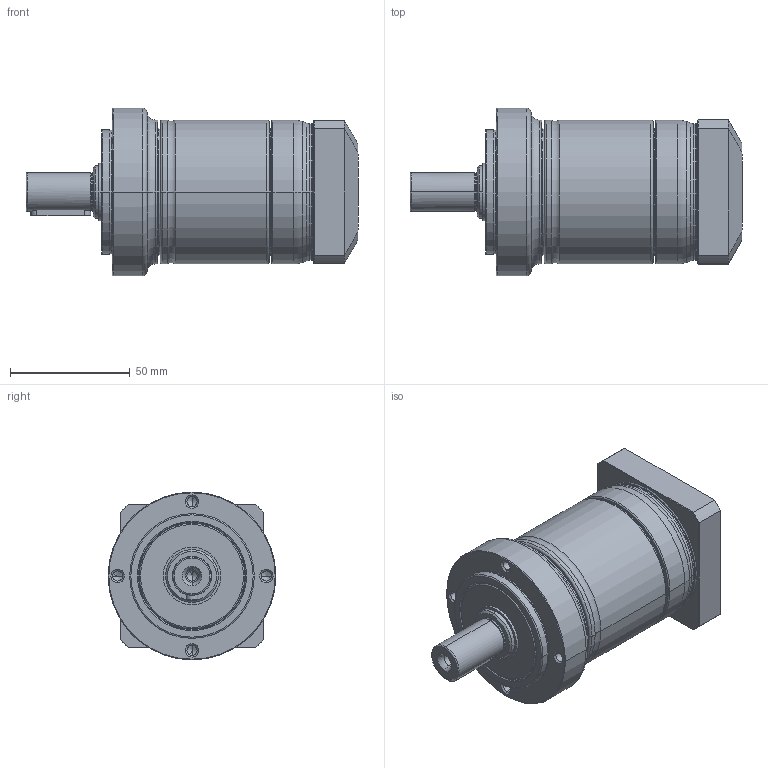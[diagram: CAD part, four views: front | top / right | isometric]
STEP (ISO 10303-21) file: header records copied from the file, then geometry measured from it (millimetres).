
FILE_DESCRIPTION((''),'2;1');
FILE_NAME('PE2-070_2ST_11-P0411200101_ASM','2017-06-01T',('d01943'),(''),'PRO/ENGINEER BY PARAMETRIC TECHNOLOGY CORPORATION, 2008410','PRO/ENGINEER BY PARAMETRIC TECHNOLOGY CORPORATION, 2008410','');
FILE_SCHEMA(('CONFIG_CONTROL_DESIGN'));
Length unit declared in the file: millimetre
Products named in the file (9): P1323210001; P0251200001; P1324200101; P0350201001; P0941201001; P0503200005; P0411200101; P1702300001; PE2-070_2ST_11-P0411200101_ASM
Assembly tree (8 placements, depth 2):
  PE2-070_2ST_11-P0411200101_ASM
    P1323210001
    P0251200001
    P1324200101
    P0350201001
    P0941201001
    P0503200005
    P0411200101
    P1702300001
Bounding box: 138.5 x 70 x 70 mm (x, y, z)
Volume: 227240.2 mm3; surface area: 73770.2 mm2
Topology: 8 solids, 8 shells, 465 faces, 1024 edges, 588 vertices
Faces by surface type: cone 136, cylinder 136, torus 100, plane 77, bspline 16
Entity records: 17439 total; most frequent: CARTESIAN_POINT 6988, DIRECTION 2379, ORIENTED_EDGE 1984, AXIS2_PLACEMENT_3D 1024, EDGE_CURVE 992, VERTEX_POINT 588, CIRCLE 558, EDGE_LOOP 526
